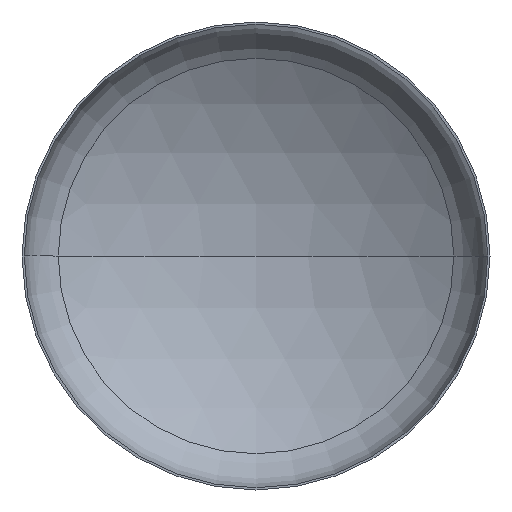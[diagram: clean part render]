
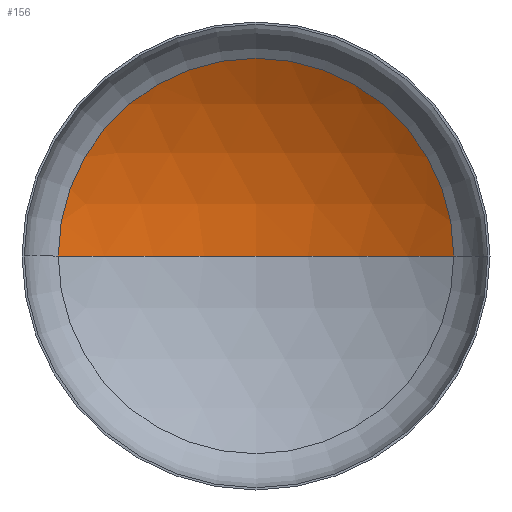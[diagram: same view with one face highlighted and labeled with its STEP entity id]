
A CAD part, front view. The second image highlights one B-rep face of the part: STEP entity #156.
In plain terms, the highlighted spherical face has radius 2880 mm.
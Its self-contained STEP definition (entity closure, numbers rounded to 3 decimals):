
#12 = AXIS2_PLACEMENT_3D ( 'NONE', #406, #258, #139 ) ;
#19 = AXIS2_PLACEMENT_3D ( 'NONE', #186, #356, #212 ) ;
#25 = AXIS2_PLACEMENT_3D ( 'NONE', #401, #233, #187 ) ;
#40 = VERTEX_POINT ( 'NONE', #228 ) ;
#47 = VERTEX_POINT ( 'NONE', #158 ) ;
#55 = AXIS2_PLACEMENT_3D ( 'NONE', #405, #142, #404 ) ;
#89 = ORIENTED_EDGE ( 'NONE', *, *, #339, .T. ) ;
#92 = EDGE_LOOP ( 'NONE', ( #143, #118, #89 ) ) ;
#118 = ORIENTED_EDGE ( 'NONE', *, *, #322, .T. ) ;
#139 = DIRECTION ( 'NONE',  ( 1., 0., 0. ) ) ;
#142 = DIRECTION ( 'NONE',  ( 0., 0., -1. ) ) ;
#143 = ORIENTED_EDGE ( 'NONE', *, *, #329, .F. ) ;
#156 = ADVANCED_FACE ( 'NONE', ( #315 ), #373, .F. ) ;
#158 = CARTESIAN_POINT ( 'NONE',  ( 1521.135, 526.271, 0. ) ) ;
#165 = CIRCLE ( 'NONE', #25, 2880. ) ;
#186 = CARTESIAN_POINT ( 'NONE',  ( 0., -1919.244, 0. ) ) ;
#187 = DIRECTION ( 'NONE',  ( -1., 0., 0. ) ) ;
#191 = CARTESIAN_POINT ( 'NONE',  ( -1521.135, 526.271, 0. ) ) ;
#212 = DIRECTION ( 'NONE',  ( 1., 0., 0. ) ) ;
#228 = CARTESIAN_POINT ( 'NONE',  ( 0., 960.756, 0. ) ) ;
#229 = CIRCLE ( 'NONE', #19, 2880. ) ;
#233 = DIRECTION ( 'NONE',  ( 0., 0., -1. ) ) ;
#258 = DIRECTION ( 'NONE',  ( 0., -1., 0. ) ) ;
#315 = FACE_OUTER_BOUND ( 'NONE', #92, .T. ) ;
#322 = EDGE_CURVE ( 'NONE', #40, #47, #165, .T. ) ;
#329 = EDGE_CURVE ( 'NONE', #40, #408, #229, .T. ) ;
#339 = EDGE_CURVE ( 'NONE', #47, #408, #348, .T. ) ;
#348 = CIRCLE ( 'NONE', #12, 1521.135 ) ;
#356 = DIRECTION ( 'NONE',  ( 0., 0., 1. ) ) ;
#373 = SPHERICAL_SURFACE ( 'NONE', #55, 2880. ) ;
#401 = CARTESIAN_POINT ( 'NONE',  ( 0., -1919.244, 0. ) ) ;
#404 = DIRECTION ( 'NONE',  ( -1., 0., 0. ) ) ;
#405 = CARTESIAN_POINT ( 'NONE',  ( 0., -1919.244, 0. ) ) ;
#406 = CARTESIAN_POINT ( 'NONE',  ( 0., 526.271, 0. ) ) ;
#408 = VERTEX_POINT ( 'NONE', #191 ) ;
